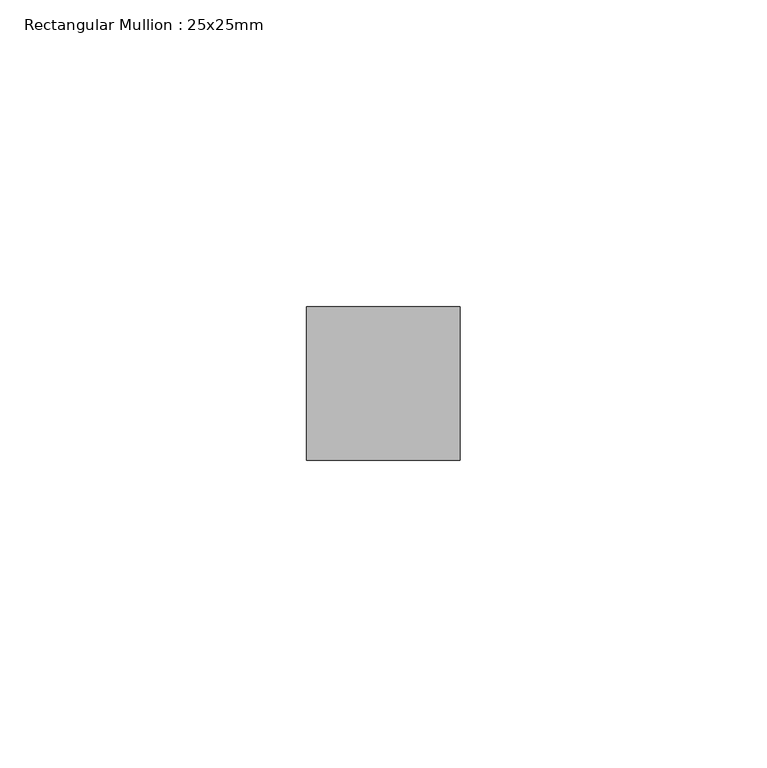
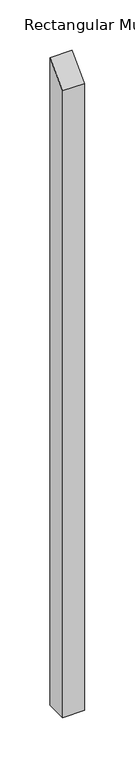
"""IFC4 building model written with IfcOpenShell, lengths in millimetres: member geometry, Rectangular Mullion : 25x25mm."""

from ifc_helpers import new_model, si_unit, frame, origin, place, context, project, spatial, polyline, outline, extrude, source, transform, mapped, element, save


def rectangular_mullion_25x25mm_822b7fe3(model_context):
    return source(origin(), model_context, "Body", "SweptSolid", [
        extrude(outline(polyline([(-0.5, -0.5), (24.5, 24.5), (24.5, -760.0000001), (-0.5, -760.0000001), (-0.5, -0.5)])), frame((-25.0, 0.0, 0.0), z_axis=(1.0, 0.0, 0.0), x_axis=(0.0, 1.0, 0.0)), (0.0, 0.0, 1.0), 25.0),
    ])


if __name__ == "__main__":
    model = new_model("IFC4")
    model_context = context("Model", 3, world=origin())
    ifc_project = project(units=[si_unit("LENGTHUNIT", "METRE", prefix="MILLI")], contexts=[model_context])
    site = spatial("IfcSite", under=ifc_project)
    building = spatial("IfcBuilding", under=site)
    placement = place(None, origin())
    rectangular_mullion_25x25mm_shape = rectangular_mullion_25x25mm_822b7fe3(model_context)
    element("IfcMember", 1, ObjectType="Rectangular Mullion : 25x25mm", at=placement, inside=building, context=model_context, shape_type="MappedRepresentation", body=[
        mapped(rectangular_mullion_25x25mm_shape, transform((0.0, 0.0, 0.0), x_axis=(1.0, 0.0, 0.0), y_axis=(0.0, 1.0, 0.0), z_axis=(0.0, 0.0, 1.0))),
    ])
    save(model, "model.ifc")
